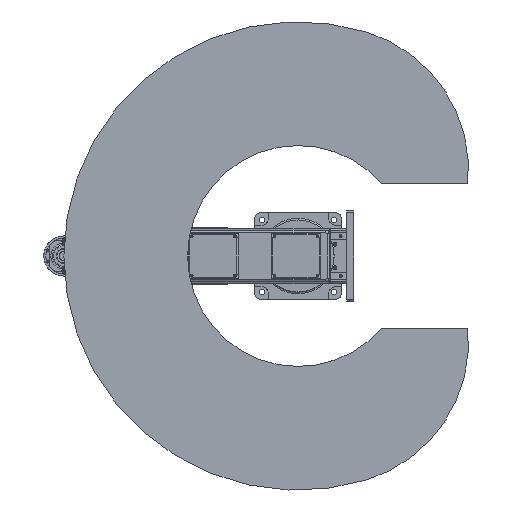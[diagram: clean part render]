
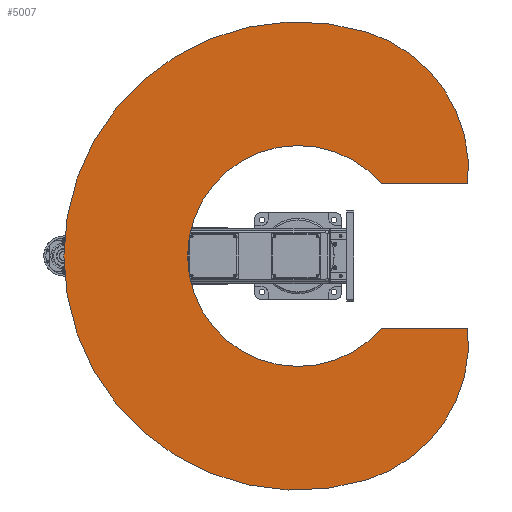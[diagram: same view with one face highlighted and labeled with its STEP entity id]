
A CAD part, front view. The second image highlights one B-rep face of the part: STEP entity #5007.
In plain terms, the highlighted planar face has unit normal (0, -1, 0).
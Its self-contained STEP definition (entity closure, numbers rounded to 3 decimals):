
#5007 = ADVANCED_FACE( '', ( #11764 ), #11765, .F. );
#11764 = FACE_OUTER_BOUND( '', #21111, .T. );
#11765 = PLANE( '', #21112 );
#21111 = EDGE_LOOP( '', ( #36241, #36242, #36243, #36244, #36245, #36246 ) );
#21112 = AXIS2_PLACEMENT_3D( '', #36247, #36248, #36249 );
#36241 = ORIENTED_EDGE( '', *, *, #52906, .F. );
#36242 = ORIENTED_EDGE( '', *, *, #50592, .F. );
#36243 = ORIENTED_EDGE( '', *, *, #52907, .T. );
#36244 = ORIENTED_EDGE( '', *, *, #52908, .F. );
#36245 = ORIENTED_EDGE( '', *, *, #52909, .F. );
#36246 = ORIENTED_EDGE( '', *, *, #50801, .F. );
#36247 = CARTESIAN_POINT( '', ( 239.076, 0., 73.093 ) );
#36248 = DIRECTION( '', ( 0., 1., 0. ) );
#36249 = DIRECTION( '', ( 0., 0., 1. ) );
#50592 = EDGE_CURVE( '', #60785, #60786, #60787, .T. );
#50801 = EDGE_CURVE( '', #61129, #61130, #61131, .T. );
#52906 = EDGE_CURVE( '', #60786, #61129, #64304, .T. );
#52907 = EDGE_CURVE( '', #60785, #64305, #64306, .T. );
#52908 = EDGE_CURVE( '', #64307, #64305, #64308, .T. );
#52909 = EDGE_CURVE( '', #61130, #64307, #64309, .T. );
#60785 = VERTEX_POINT( '', #76311 );
#60786 = VERTEX_POINT( '', #76312 );
#60787 = LINE( '', #76313, #76314 );
#61129 = VERTEX_POINT( '', #77046 );
#61130 = VERTEX_POINT( '', #77047 );
#61131 = CIRCLE( '', #77048, 650. );
#64304 = CIRCLE( '', #82452, 400. );
#64305 = VERTEX_POINT( '', #82453 );
#64306 = CIRCLE( '', #82454, 306.5 );
#64307 = VERTEX_POINT( '', #82455 );
#64308 = LINE( '', #82456, #82457 );
#64309 = CIRCLE( '', #82458, 400. );
#76311 = CARTESIAN_POINT( '', ( 200., 0., 232.255 ) );
#76312 = CARTESIAN_POINT( '', ( 200., 0., 471.18 ) );
#76313 = CARTESIAN_POINT( '', ( 200., 0., 232.255 ) );
#76314 = VECTOR( '', #91685, 1000. );
#77046 = CARTESIAN_POINT( '', ( 621.598, 0., 190.042 ) );
#77047 = CARTESIAN_POINT( '', ( -621.598, 0., 190.042 ) );
#77048 = AXIS2_PLACEMENT_3D( '', #91941, #91942, #91943 );
#82452 = AXIS2_PLACEMENT_3D( '', #94483, #94484, #94485 );
#82453 = CARTESIAN_POINT( '', ( -200., 0., 232.255 ) );
#82454 = AXIS2_PLACEMENT_3D( '', #94486, #94487, #94488 );
#82455 = CARTESIAN_POINT( '', ( -200., 0., 471.18 ) );
#82456 = CARTESIAN_POINT( '', ( -200., 0., 471.18 ) );
#82457 = VECTOR( '', #94489, 1000. );
#82458 = AXIS2_PLACEMENT_3D( '', #94490, #94491, #94492 );
#91685 = DIRECTION( '', ( 0., 0., 1. ) );
#91941 = CARTESIAN_POINT( '', ( 0., 0., 0. ) );
#91942 = DIRECTION( '', ( 0., 1., 0. ) );
#91943 = DIRECTION( '', ( 1., 0., 0. ) );
#94483 = CARTESIAN_POINT( '', ( 239.076, 0., 73.093 ) );
#94484 = DIRECTION( '', ( 0., 1., 0. ) );
#94485 = DIRECTION( '', ( 1., 0., 0. ) );
#94486 = CARTESIAN_POINT( '', ( 0., 0., 0. ) );
#94487 = DIRECTION( '', ( 0., 1., 0. ) );
#94488 = DIRECTION( '', ( 1., 0., 0. ) );
#94489 = DIRECTION( '', ( 0., 0., -1. ) );
#94490 = CARTESIAN_POINT( '', ( -239.076, 0., 73.093 ) );
#94491 = DIRECTION( '', ( 0., 1., 0. ) );
#94492 = DIRECTION( '', ( 1., 0., 0. ) );
